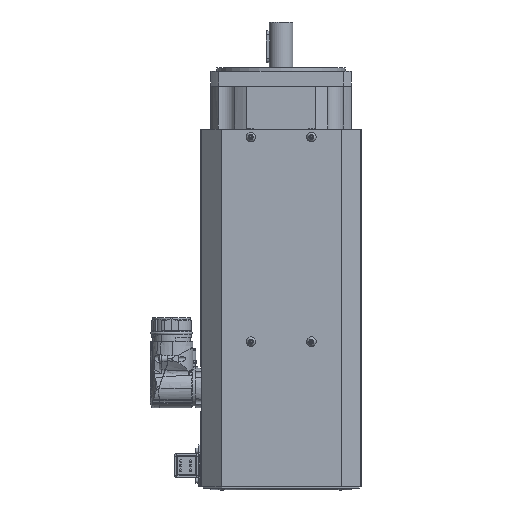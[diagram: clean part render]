
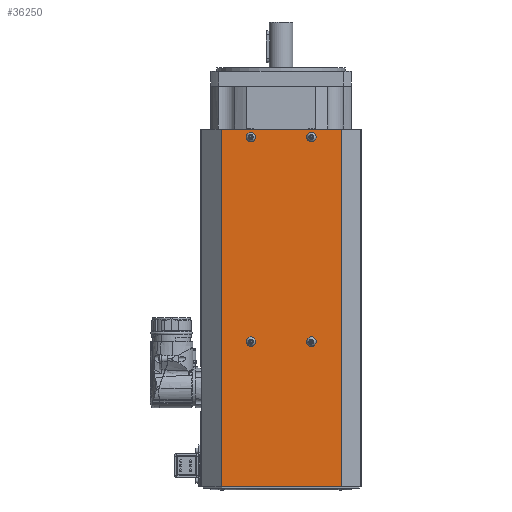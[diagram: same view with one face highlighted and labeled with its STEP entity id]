
A CAD part, left-side view. The second image highlights one B-rep face of the part: STEP entity #36250.
In plain terms, the highlighted planar face has unit normal (-1, 0, 0).
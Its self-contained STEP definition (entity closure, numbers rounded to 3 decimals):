
#5380=LINE('',#70969,#7312);
#5393=LINE('',#70991,#7325);
#5394=LINE('',#70993,#7326);
#5395=LINE('',#70994,#7327);
#7312=VECTOR('',#48792,362.);
#7325=VECTOR('',#48813,362.);
#7326=VECTOR('',#48816,121.6);
#7327=VECTOR('',#48817,121.6);
#8842=FACE_BOUND('',#13676,.T.);
#8843=FACE_BOUND('',#13677,.T.);
#8844=FACE_BOUND('',#13678,.T.);
#8845=FACE_BOUND('',#13679,.T.);
#8846=FACE_BOUND('',#13680,.T.);
#13676=EDGE_LOOP('',(#32412));
#13677=EDGE_LOOP('',(#32413));
#13678=EDGE_LOOP('',(#32414));
#13679=EDGE_LOOP('',(#32415));
#13680=EDGE_LOOP('',(#32416,#32417,#32418,#32419));
#15336=CIRCLE('',#39598,4.75);
#15350=CIRCLE('',#39633,4.75);
#15364=CIRCLE('',#39668,4.75);
#15378=CIRCLE('',#39703,4.75);
#18447=VERTEX_POINT('',#70151);
#18467=VERTEX_POINT('',#70236);
#18487=VERTEX_POINT('',#70321);
#18507=VERTEX_POINT('',#70406);
#18661=VERTEX_POINT('',#70966);
#18662=VERTEX_POINT('',#70968);
#18666=VERTEX_POINT('',#70987);
#18667=VERTEX_POINT('',#70989);
#22956=EDGE_CURVE('',#18447,#18447,#15336,.T.);
#22988=EDGE_CURVE('',#18467,#18467,#15350,.T.);
#23020=EDGE_CURVE('',#18487,#18487,#15364,.T.);
#23052=EDGE_CURVE('',#18507,#18507,#15378,.T.);
#23286=EDGE_CURVE('',#18661,#18662,#5380,.T.);
#23299=EDGE_CURVE('',#18666,#18667,#5393,.T.);
#23300=EDGE_CURVE('',#18666,#18661,#5394,.T.);
#23301=EDGE_CURVE('',#18667,#18662,#5395,.T.);
#32412=ORIENTED_EDGE('',*,*,#22956,.T.);
#32413=ORIENTED_EDGE('',*,*,#22988,.T.);
#32414=ORIENTED_EDGE('',*,*,#23020,.T.);
#32415=ORIENTED_EDGE('',*,*,#23052,.T.);
#32416=ORIENTED_EDGE('',*,*,#23300,.F.);
#32417=ORIENTED_EDGE('',*,*,#23299,.T.);
#32418=ORIENTED_EDGE('',*,*,#23301,.T.);
#32419=ORIENTED_EDGE('',*,*,#23286,.F.);
#34161=PLANE('',#39904);
#36250=ADVANCED_FACE('',(#8842,#8843,#8844,#8845,#8846),#34161,.T.);
#39598=AXIS2_PLACEMENT_3D('',#70152,#48014,#48015);
#39633=AXIS2_PLACEMENT_3D('',#70237,#48096,#48097);
#39668=AXIS2_PLACEMENT_3D('',#70322,#48178,#48179);
#39703=AXIS2_PLACEMENT_3D('',#70407,#48260,#48261);
#39904=AXIS2_PLACEMENT_3D('',#70992,#48814,#48815);
#48014=DIRECTION('center_axis',(1.,0.,0.));
#48015=DIRECTION('ref_axis',(0.,0.,-1.));
#48096=DIRECTION('center_axis',(1.,0.,0.));
#48097=DIRECTION('ref_axis',(0.,0.,-1.));
#48178=DIRECTION('center_axis',(1.,0.,0.));
#48179=DIRECTION('ref_axis',(0.,0.,-1.));
#48260=DIRECTION('center_axis',(1.,0.,0.));
#48261=DIRECTION('ref_axis',(0.,0.,-1.));
#48792=DIRECTION('',(0.,0.,-1.));
#48813=DIRECTION('',(0.,0.,-1.));
#48814=DIRECTION('center_axis',(-1.,0.,0.));
#48815=DIRECTION('ref_axis',(0.,1.,0.));
#48816=DIRECTION('',(0.,-1.,0.));
#48817=DIRECTION('',(0.,-1.,0.));
#70151=CARTESIAN_POINT('',(-80.2,-30.65,-253.75));
#70152=CARTESIAN_POINT('Origin',(-80.2,-30.65,-258.5));
#70236=CARTESIAN_POINT('',(-80.2,-30.65,-46.75));
#70237=CARTESIAN_POINT('Origin',(-80.2,-30.65,-51.5));
#70321=CARTESIAN_POINT('',(-80.2,30.65,-253.75));
#70322=CARTESIAN_POINT('Origin',(-80.2,30.65,-258.5));
#70406=CARTESIAN_POINT('',(-80.2,30.65,-46.75));
#70407=CARTESIAN_POINT('Origin',(-80.2,30.65,-51.5));
#70966=CARTESIAN_POINT('',(-80.2,-60.8,-43.5));
#70968=CARTESIAN_POINT('',(-80.2,-60.8,-405.5));
#70969=CARTESIAN_POINT('',(-80.2,-60.8,-43.5));
#70987=CARTESIAN_POINT('',(-80.2,60.8,-43.5));
#70989=CARTESIAN_POINT('',(-80.2,60.8,-405.5));
#70991=CARTESIAN_POINT('',(-80.2,60.8,-43.5));
#70992=CARTESIAN_POINT('Origin',(-80.2,0.,-43.5));
#70993=CARTESIAN_POINT('',(-80.2,60.8,-43.5));
#70994=CARTESIAN_POINT('',(-80.2,-60.8,-405.5));
